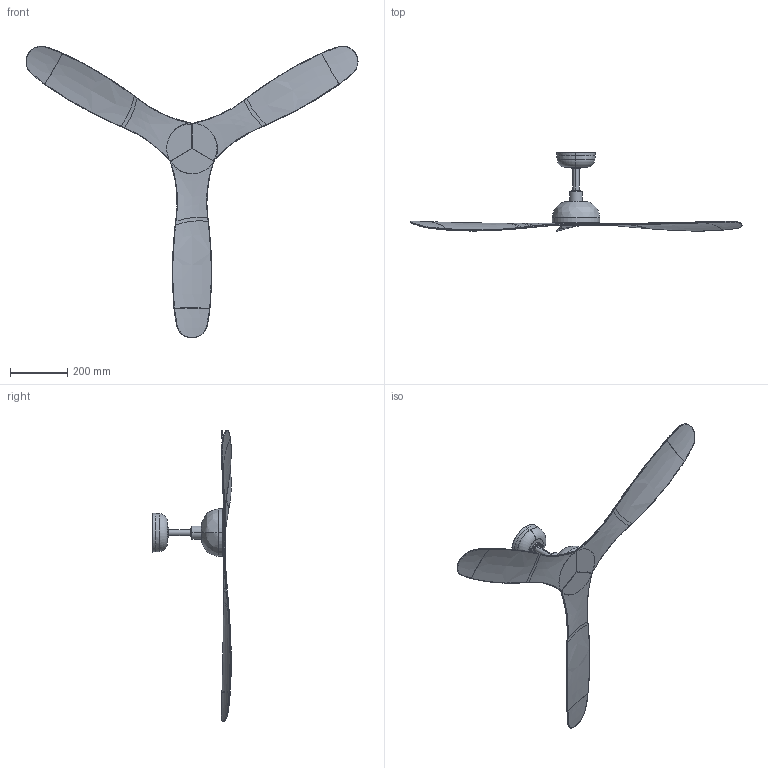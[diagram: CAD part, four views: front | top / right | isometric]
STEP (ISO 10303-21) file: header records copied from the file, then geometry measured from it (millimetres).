
FILE_DESCRIPTION(/* description */ (''),/* implementation_level */ '2;1');
FILE_NAME(/* name */ 'C:\Users\FrancoSartori\Documents\FARO\01_En Proceso\00_GOTLAND\03_Publicación\33446WP.stp',/* time_stamp */ '2021-06-10T13:37:48+02:00',/* author */ ('FrancoSartori'),/* organization */ (''),/* preprocessor_version */ 'ST-DEVELOPER v18.1',/* originating_system */ 'AutoCAD Mechanical',/* authorisation */ '');
FILE_SCHEMA (('AUTOMOTIVE_DESIGN { 1 0 10303 214 3 1 1 }'));
Products named in the file (7): Product; 166SHANGZHAO-2020-5-26; 5CUNDIAOGAN-2020-5-26; 45JIETOUZHAO-38-2020-5-26; DIAOQIOU-2020-5-26-; 136DIAOZHONG-2020-5--6; 52SHANYE-2-2020-5-28--
Assembly tree (8 placements, depth 2):
  Product
    166SHANGZHAO-2020-5-26
    5CUNDIAOGAN-2020-5-26
    45JIETOUZHAO-38-2020-5-26
    DIAOQIOU-2020-5-26-
    136DIAOZHONG-2020-5--6
    52SHANYE-2-2020-5-28--  x3
Bounding box: 1155.57 x 273.27 x 1015.14 mm (x, y, z)
Volume: 1253564 mm3; surface area: 710176.7 mm2
Topology: 8 solids, 8 shells, 2270 faces, 6134 edges, 4030 vertices
Faces by surface type: bspline 1317, plane 764, cylinder 117, torus 42, cone 23, sphere 7
Entity records: 47676 total; most frequent: CARTESIAN_POINT 23184, ORIENTED_EDGE 5748, DIRECTION 3896, EDGE_CURVE 2874, VERTEX_POINT 1890, LINE 1404, VECTOR 1404, AXIS2_PLACEMENT_3D 1246
